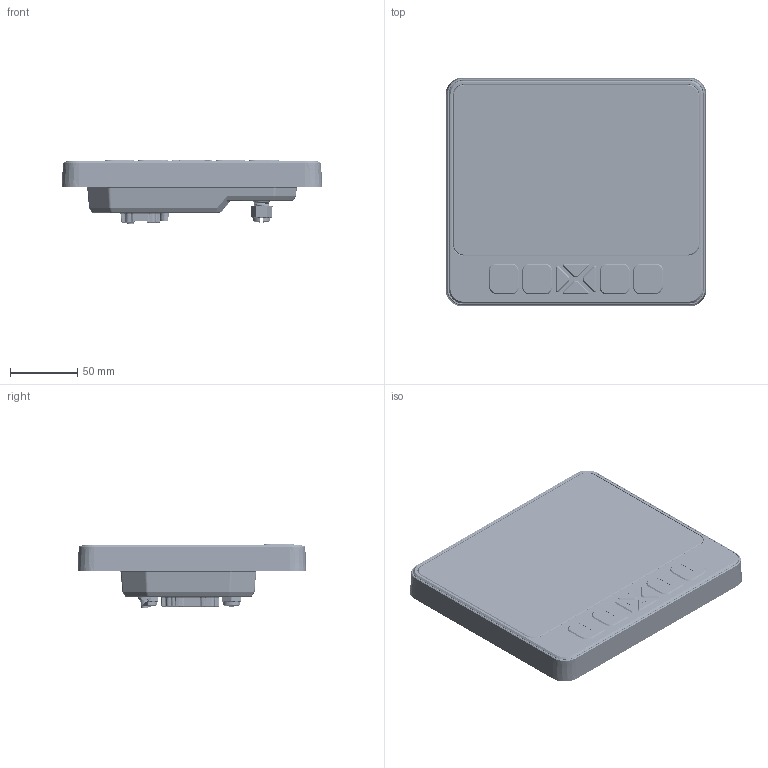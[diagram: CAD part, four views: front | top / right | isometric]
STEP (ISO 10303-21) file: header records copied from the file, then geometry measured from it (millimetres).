
FILE_DESCRIPTION (( 'STEP AP214' ), '1' );
FILE_NAME ('CL-714-100-XX-1XX.STEP', '2022-10-24T22:04:24', ( 'setup' ), ( 'Microsoft' ), 'SwSTEP 2.0', 'SolidWorks 2019', '' );
FILE_SCHEMA (( 'AUTOMOTIVE_DESIGN' ));
Length unit declared in the file: inch
Products named in the file (26): 175-0306-S0-G; Spirol_29_short_flanged_metric; PCB_v18_WIth Buttons; D-0008_92174A661; CL-714-100-XX-1XX; 186-14-710; 175-01-713; G-0017_92165A029; LOCA_LENS TO SENSOR_WIN; WH-001-270_NO LEAD; LOCA_SENSOR TO LCD; CL-714-500; CL-714-211; 209-02-616_With Buttons; 175-01-713_GASKET; LCD_SERIAL NAMEPLATE; B-0099-1_No wires; 209-02-612_IN ASSEMBLY; 175-45-635; 175-0306-S0-G-BASE; 10808044B_Lead1
Assembly tree (53 placements, depth 4):
  CL-714-100-XX-1XX
    CL-714-500
      CL-714-500
      Spirol_29_short_flanged_metric  x6
    186-14-710
    CL-714-211
      LOCA_SENSOR TO LCD
      209-02-612_IN ASSEMBLY
        209-02-616_With Buttons
        LOCA_LENS TO SENSOR_WIN
      LCD_SERIAL NAMEPLATE
    PCB_v18_WIth Buttons
      175-0306-S0-G
        175-0306-S0-G-BASE
        175-45-635  x18
    WH-001-270_NO LEAD
      10808044B_Lead1
        B-0099-1_No wires
        G-0017_92165A029
        D-0008_92174A661
    175-01-713
      175-01-713
      175-01-713_GASKET
    175-01-713
      175-01-713
      175-01-713_GASKET
    175-01-713
      175-01-713
      175-01-713_GASKET
    175-01-713
      175-01-713
      175-01-713_GASKET
Bounding box: 193.22 x 169.77 x 47.78 mm (x, y, z)
Volume: 152654.6 mm3; surface area: 299662.2 mm2
Topology: 41 solids, 43 shells, 4385 faces, 10592 edges, 6462 vertices
Faces by surface type: cylinder 1392, plane 1221, bspline 882, cone 503, torus 258, sphere 129
Entity records: 168606 total; most frequent: CARTESIAN_POINT 86768, ORIENTED_EDGE 17698, DIRECTION 14663, EDGE_CURVE 8852, VERTEX_POINT 5420, AXIS2_PLACEMENT_3D 5326, LINE 4011, VECTOR 4011
